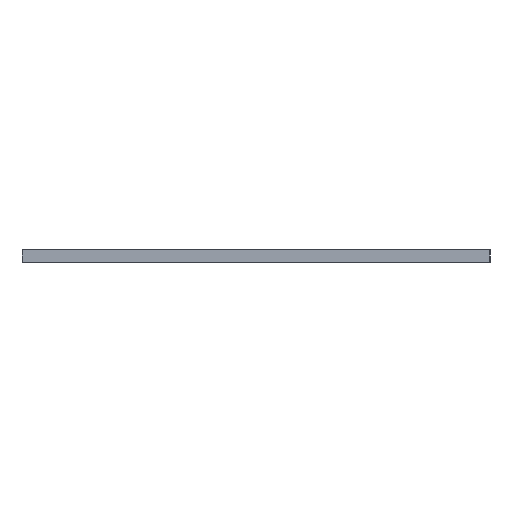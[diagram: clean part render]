
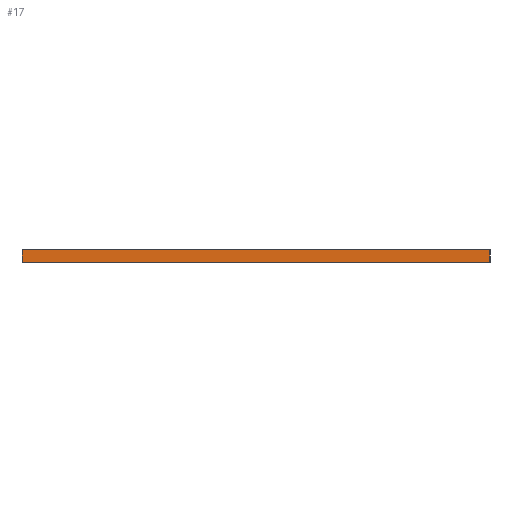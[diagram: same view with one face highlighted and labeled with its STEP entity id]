
A CAD part, left-side view. The second image highlights one B-rep face of the part: STEP entity #17.
In plain terms, the highlighted planar face has unit normal (-1, 0, 0).
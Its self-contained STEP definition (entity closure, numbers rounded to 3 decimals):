
#17 = ADVANCED_FACE('',(#18),#32,.F.);
#18 = FACE_BOUND('',#19,.F.);
#19 = EDGE_LOOP('',(#20,#55,#83,#111));
#20 = ORIENTED_EDGE('',*,*,#21,.F.);
#21 = EDGE_CURVE('',#22,#24,#26,.T.);
#22 = VERTEX_POINT('',#23);
#23 = CARTESIAN_POINT('',(139.,-55.,105.));
#24 = VERTEX_POINT('',#25);
#25 = CARTESIAN_POINT('',(139.,-55.,108.));
#26 = SURFACE_CURVE('',#27,(#31,#43),.PCURVE_S1.);
#27 = LINE('',#28,#29);
#28 = CARTESIAN_POINT('',(139.,-55.,105.));
#29 = VECTOR('',#30,1.);
#30 = DIRECTION('',(0.,0.,1.));
#31 = PCURVE('',#32,#37);
#32 = PLANE('',#33);
#33 = AXIS2_PLACEMENT_3D('',#34,#35,#36);
#34 = CARTESIAN_POINT('',(139.,-55.,105.));
#35 = DIRECTION('',(1.,0.,0.));
#36 = DIRECTION('',(0.,0.,1.));
#37 = DEFINITIONAL_REPRESENTATION('',(#38),#42);
#38 = LINE('',#39,#40);
#39 = CARTESIAN_POINT('',(0.,0.));
#40 = VECTOR('',#41,1.);
#41 = DIRECTION('',(1.,0.));
#42 = ( GEOMETRIC_REPRESENTATION_CONTEXT(2) 
PARAMETRIC_REPRESENTATION_CONTEXT() REPRESENTATION_CONTEXT('2D SPACE',''
  ) );
#43 = PCURVE('',#44,#49);
#44 = PLANE('',#45);
#45 = AXIS2_PLACEMENT_3D('',#46,#47,#48);
#46 = CARTESIAN_POINT('',(139.,-55.,105.));
#47 = DIRECTION('',(0.,1.,0.));
#48 = DIRECTION('',(0.,0.,1.));
#49 = DEFINITIONAL_REPRESENTATION('',(#50),#54);
#50 = LINE('',#51,#52);
#51 = CARTESIAN_POINT('',(0.,0.));
#52 = VECTOR('',#53,1.);
#53 = DIRECTION('',(1.,0.));
#54 = ( GEOMETRIC_REPRESENTATION_CONTEXT(2) 
PARAMETRIC_REPRESENTATION_CONTEXT() REPRESENTATION_CONTEXT('2D SPACE',''
  ) );
#55 = ORIENTED_EDGE('',*,*,#56,.T.);
#56 = EDGE_CURVE('',#22,#57,#59,.T.);
#57 = VERTEX_POINT('',#58);
#58 = CARTESIAN_POINT('',(139.,55.,105.));
#59 = SURFACE_CURVE('',#60,(#64,#71),.PCURVE_S1.);
#60 = LINE('',#61,#62);
#61 = CARTESIAN_POINT('',(139.,-55.,105.));
#62 = VECTOR('',#63,1.);
#63 = DIRECTION('',(0.,1.,0.));
#64 = PCURVE('',#32,#65);
#65 = DEFINITIONAL_REPRESENTATION('',(#66),#70);
#66 = LINE('',#67,#68);
#67 = CARTESIAN_POINT('',(0.,0.));
#68 = VECTOR('',#69,1.);
#69 = DIRECTION('',(0.,-1.));
#70 = ( GEOMETRIC_REPRESENTATION_CONTEXT(2) 
PARAMETRIC_REPRESENTATION_CONTEXT() REPRESENTATION_CONTEXT('2D SPACE',''
  ) );
#71 = PCURVE('',#72,#77);
#72 = PLANE('',#73);
#73 = AXIS2_PLACEMENT_3D('',#74,#75,#76);
#74 = CARTESIAN_POINT('',(139.,-55.,105.));
#75 = DIRECTION('',(0.,0.,1.));
#76 = DIRECTION('',(1.,0.,0.));
#77 = DEFINITIONAL_REPRESENTATION('',(#78),#82);
#78 = LINE('',#79,#80);
#79 = CARTESIAN_POINT('',(0.,0.));
#80 = VECTOR('',#81,1.);
#81 = DIRECTION('',(0.,1.));
#82 = ( GEOMETRIC_REPRESENTATION_CONTEXT(2) 
PARAMETRIC_REPRESENTATION_CONTEXT() REPRESENTATION_CONTEXT('2D SPACE',''
  ) );
#83 = ORIENTED_EDGE('',*,*,#84,.T.);
#84 = EDGE_CURVE('',#57,#85,#87,.T.);
#85 = VERTEX_POINT('',#86);
#86 = CARTESIAN_POINT('',(139.,55.,108.));
#87 = SURFACE_CURVE('',#88,(#92,#99),.PCURVE_S1.);
#88 = LINE('',#89,#90);
#89 = CARTESIAN_POINT('',(139.,55.,105.));
#90 = VECTOR('',#91,1.);
#91 = DIRECTION('',(0.,0.,1.));
#92 = PCURVE('',#32,#93);
#93 = DEFINITIONAL_REPRESENTATION('',(#94),#98);
#94 = LINE('',#95,#96);
#95 = CARTESIAN_POINT('',(0.,-110.));
#96 = VECTOR('',#97,1.);
#97 = DIRECTION('',(1.,0.));
#98 = ( GEOMETRIC_REPRESENTATION_CONTEXT(2) 
PARAMETRIC_REPRESENTATION_CONTEXT() REPRESENTATION_CONTEXT('2D SPACE',''
  ) );
#99 = PCURVE('',#100,#105);
#100 = PLANE('',#101);
#101 = AXIS2_PLACEMENT_3D('',#102,#103,#104);
#102 = CARTESIAN_POINT('',(139.,55.,105.));
#103 = DIRECTION('',(0.,1.,0.));
#104 = DIRECTION('',(0.,0.,1.));
#105 = DEFINITIONAL_REPRESENTATION('',(#106),#110);
#106 = LINE('',#107,#108);
#107 = CARTESIAN_POINT('',(0.,0.));
#108 = VECTOR('',#109,1.);
#109 = DIRECTION('',(1.,0.));
#110 = ( GEOMETRIC_REPRESENTATION_CONTEXT(2) 
PARAMETRIC_REPRESENTATION_CONTEXT() REPRESENTATION_CONTEXT('2D SPACE',''
  ) );
#111 = ORIENTED_EDGE('',*,*,#112,.F.);
#112 = EDGE_CURVE('',#24,#85,#113,.T.);
#113 = SURFACE_CURVE('',#114,(#118,#125),.PCURVE_S1.);
#114 = LINE('',#115,#116);
#115 = CARTESIAN_POINT('',(139.,-55.,108.));
#116 = VECTOR('',#117,1.);
#117 = DIRECTION('',(0.,1.,0.));
#118 = PCURVE('',#32,#119);
#119 = DEFINITIONAL_REPRESENTATION('',(#120),#124);
#120 = LINE('',#121,#122);
#121 = CARTESIAN_POINT('',(3.,0.));
#122 = VECTOR('',#123,1.);
#123 = DIRECTION('',(0.,-1.));
#124 = ( GEOMETRIC_REPRESENTATION_CONTEXT(2) 
PARAMETRIC_REPRESENTATION_CONTEXT() REPRESENTATION_CONTEXT('2D SPACE',''
  ) );
#125 = PCURVE('',#126,#131);
#126 = PLANE('',#127);
#127 = AXIS2_PLACEMENT_3D('',#128,#129,#130);
#128 = CARTESIAN_POINT('',(139.,-55.,108.));
#129 = DIRECTION('',(0.,0.,1.));
#130 = DIRECTION('',(1.,0.,0.));
#131 = DEFINITIONAL_REPRESENTATION('',(#132),#136);
#132 = LINE('',#133,#134);
#133 = CARTESIAN_POINT('',(0.,0.));
#134 = VECTOR('',#135,1.);
#135 = DIRECTION('',(0.,1.));
#136 = ( GEOMETRIC_REPRESENTATION_CONTEXT(2) 
PARAMETRIC_REPRESENTATION_CONTEXT() REPRESENTATION_CONTEXT('2D SPACE',''
  ) );
